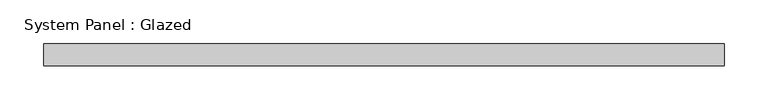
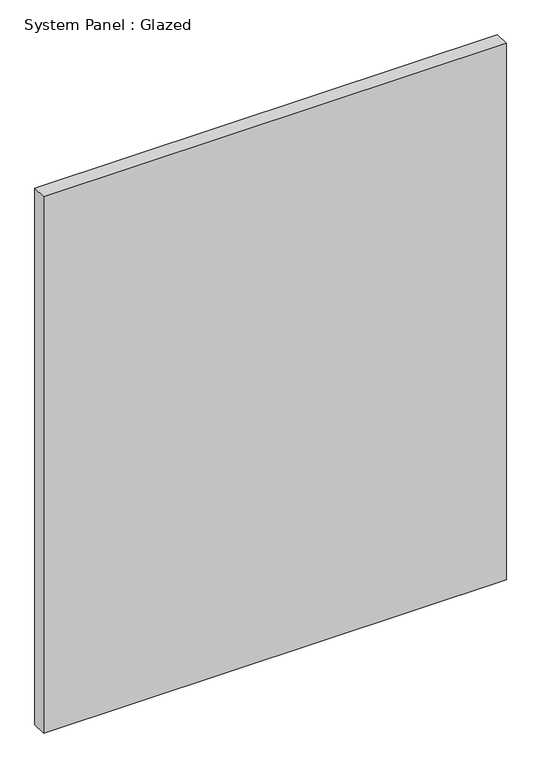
"""IFC4 building model written with IfcOpenShell, lengths in millimetres: plate geometry, System Panel : Glazed."""

from ifc_helpers import new_model, si_unit, origin, origin_with_axes, place, context, project, spatial, polyline, outline, extrude, source, transform, mapped, element, save


def system_panel_glazed_d253aa96(model_context):
    return source(origin(), model_context, "Body", "SweptSolid", [
        extrude(outline(polyline([(387.9288593, 24.5), (-387.9288593, 24.5), (-387.9288593, 49.5), (387.9288593, 49.5), (387.9288593, 24.5)])), origin_with_axes(), (0.0, 0.0, 1.0), 950.0),
    ])


if __name__ == "__main__":
    model = new_model("IFC4")
    model_context = context("Model", 3, world=origin())
    ifc_project = project(units=[si_unit("LENGTHUNIT", "METRE", prefix="MILLI")], contexts=[model_context])
    site = spatial("IfcSite", under=ifc_project)
    building = spatial("IfcBuilding", under=site)
    placement = place(None, origin())
    system_panel_glazed_shape = system_panel_glazed_d253aa96(model_context)
    element("IfcPlate", 1, ObjectType="System Panel : Glazed", at=placement, inside=building, context=model_context, shape_type="MappedRepresentation", body=[
        mapped(system_panel_glazed_shape, transform((0.0, 0.0, 0.0), x_axis=(1.0, 0.0, 0.0), y_axis=(0.0, 1.0, 0.0), z_axis=(0.0, 0.0, 1.0))),
    ])
    save(model, "model.ifc")
